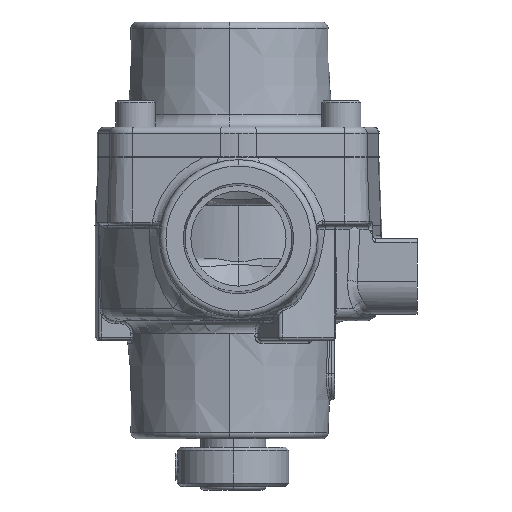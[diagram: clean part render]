
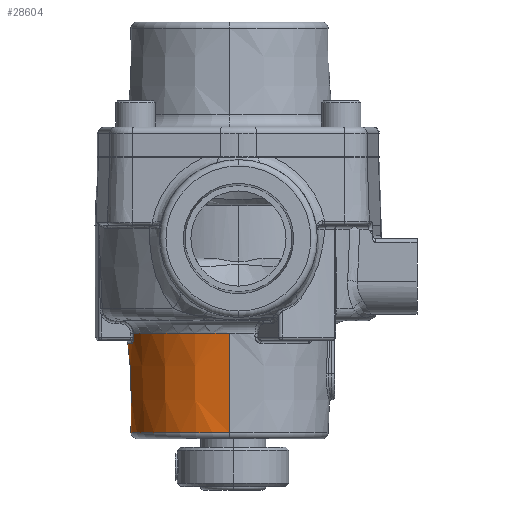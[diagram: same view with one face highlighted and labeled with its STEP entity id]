
A CAD part, left-side view. The second image highlights one B-rep face of the part: STEP entity #28604.
In plain terms, the highlighted conical face has half-angle 2 degrees and reference radius 24.803 mm.
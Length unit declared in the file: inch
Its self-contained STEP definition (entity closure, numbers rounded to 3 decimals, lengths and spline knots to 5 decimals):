
#14 = AXIS2_PLACEMENT_3D ( 'NONE', #29384, #29385, #29386 ) ;
#49 = AXIS2_PLACEMENT_3D ( 'NONE', #41721, #41723, #41724 ) ;
#1310 = DIRECTION ( 'NONE',  ( 0., 0., -1. ) ) ;
#1315 = CARTESIAN_POINT ( 'NONE',  ( 0., 0.084, 1.00436 ) ) ;
#1345 = DIRECTION ( 'NONE',  ( 1., 0., 0. ) ) ;
#3415 = CARTESIAN_POINT ( 'NONE',  ( -0.97229, 0.084, 1.00436 ) ) ;
#3571 = CARTESIAN_POINT ( 'NONE',  ( -0.93924, 0.084, 0.05791 ) ) ;
#3652 = CARTESIAN_POINT ( 'NONE',  ( 0.97229, 0.084, 1.00436 ) ) ;
#3857 = CARTESIAN_POINT ( 'NONE',  ( 0.27354, 1.01355, 0.90905 ) ) ;
#3989 = VERTEX_POINT ( 'NONE', #3857 ) ;
#4150 = VERTEX_POINT ( 'NONE', #3571 ) ;
#4191 = VERTEX_POINT ( 'NONE', #3652 ) ;
#4434 = VERTEX_POINT ( 'NONE', #3415 ) ;
#5062 = VERTEX_POINT ( 'NONE', #36518 ) ;
#5078 = VERTEX_POINT ( 'NONE', #36513 ) ;
#5499 = B_SPLINE_CURVE_WITH_KNOTS ( 'NONE', 3,
 ( #51690, #51725, #51668, #51667 ),
 .UNSPECIFIED., .F., .F.,
 ( 4, 4 ),
 ( 0., 0.0009 ),
 .UNSPECIFIED. ) ;
#5597 = B_SPLINE_CURVE_WITH_KNOTS ( 'NONE', 3,
 ( #7863, #7874, #7883, #7885, #7886, #7888, #7890, #7892, #7893, #7894, #7895, #7897 ),
 .UNSPECIFIED., .F., .F.,
 ( 4, 2, 2, 2, 2, 4 ),
 ( 0., 0.0006, 0.0009, 0.0012, 0.0018, 0.0024 ),
 .UNSPECIFIED. ) ;
#5636 = B_SPLINE_CURVE_WITH_KNOTS ( 'NONE', 3,
 ( #29383, #29392, #29420, #29421, #29422, #29423, #29424, #29425, #29426, #29427, #29428, #29429, #29430, #29431 ),
 .UNSPECIFIED., .F., .F.,
 ( 4, 2, 2, 2, 2, 2, 4 ),
 ( 0., 0.0003, 0.0006, 0.0009, 0.0012, 0.0018, 0.0024 ),
 .UNSPECIFIED. ) ;
#6044 = B_SPLINE_CURVE_WITH_KNOTS ( 'NONE', 3,
 ( #42836, #42601, #42594, #42574 ),
 .UNSPECIFIED., .F., .F.,
 ( 4, 4 ),
 ( 0., 0.0009 ),
 .UNSPECIFIED. ) ;
#6919 = AXIS2_PLACEMENT_3D ( 'NONE', #1315, #1310, #1345 ) ;
#7863 = CARTESIAN_POINT ( 'NONE',  ( -0.27354, 1.01355, 0.90905 ) ) ;
#7874 = CARTESIAN_POINT ( 'NONE',  ( -0.28119, 1.0113, 0.90905 ) ) ;
#7883 = CARTESIAN_POINT ( 'NONE',  ( -0.28867, 1.00904, 0.91059 ) ) ;
#7885 = CARTESIAN_POINT ( 'NONE',  ( -0.2992, 1.00584, 0.91505 ) ) ;
#7886 = CARTESIAN_POINT ( 'NONE',  ( -0.30253, 1.00481, 0.91688 ) ) ;
#7888 = CARTESIAN_POINT ( 'NONE',  ( -0.30884, 1.00288, 0.92118 ) ) ;
#7890 = CARTESIAN_POINT ( 'NONE',  ( -0.31184, 1.00195, 0.9237 ) ) ;
#7892 = CARTESIAN_POINT ( 'NONE',  ( -0.31992, 0.99949, 0.93196 ) ) ;
#7893 = CARTESIAN_POINT ( 'NONE',  ( -0.3243, 0.99818, 0.93865 ) ) ;
#7894 = CARTESIAN_POINT ( 'NONE',  ( -0.33018, 0.99661, 0.95314 ) ) ;
#7895 = CARTESIAN_POINT ( 'NONE',  ( -0.33175, 0.99633, 0.96107 ) ) ;
#7897 = CARTESIAN_POINT ( 'NONE',  ( -0.33176, 0.99662, 0.96905 ) ) ;
#9993 = ORIENTED_EDGE ( 'NONE', *, *, #43315, .F. ) ;
#10008 = ORIENTED_EDGE ( 'NONE', *, *, #16165, .T. ) ;
#10022 = ORIENTED_EDGE ( 'NONE', *, *, #43309, .T. ) ;
#10072 = ORIENTED_EDGE ( 'NONE', *, *, #43239, .T. ) ;
#10187 = ORIENTED_EDGE ( 'NONE', *, *, #16162, .T. ) ;
#10296 = ORIENTED_EDGE ( 'NONE', *, *, #15755, .F. ) ;
#10316 = ORIENTED_EDGE ( 'NONE', *, *, #42808, .F. ) ;
#10330 = ORIENTED_EDGE ( 'NONE', *, *, #16033, .T. ) ;
#10354 = ORIENTED_EDGE ( 'NONE', *, *, #48419, .T. ) ;
#10455 = ORIENTED_EDGE ( 'NONE', *, *, #22302, .T. ) ;
#10924 = CONICAL_SURFACE ( 'NONE', #44820, 0.9765, 0.035 ) ;
#10986 = FACE_OUTER_BOUND ( 'NONE', #48134, .T. ) ;
#15231 = CIRCLE ( 'NONE', #6919, 0.97229 ) ;
#15375 = VECTOR ( 'NONE', #42959, 39.37008 ) ;
#15380 = LINE ( 'NONE', #42562, #15375 ) ;
#15755 = EDGE_CURVE ( 'NONE', #5062, #4191, #43215, .T. ) ;
#16033 = EDGE_CURVE ( 'NONE', #5078, #4191, #15231, .T. ) ;
#16162 = EDGE_CURVE ( 'NONE', #22893, #5078, #6044, .T. ) ;
#16165 = EDGE_CURVE ( 'NONE', #4150, #4434, #15380, .T. ) ;
#22302 = EDGE_CURVE ( 'NONE', #22865, #22898, #5499, .T. ) ;
#22865 = VERTEX_POINT ( 'NONE', #26602 ) ;
#22890 = VERTEX_POINT ( 'NONE', #26317 ) ;
#22893 = VERTEX_POINT ( 'NONE', #26185 ) ;
#22898 = VERTEX_POINT ( 'NONE', #26177 ) ;
#23434 = CARTESIAN_POINT ( 'NONE',  ( 0.9765, 0.084, 1.125 ) ) ;
#23493 = DIRECTION ( 'NONE',  ( 0.035, 0., 0.999 ) ) ;
#26177 = CARTESIAN_POINT ( 'NONE',  ( -0.33176, 0.99662, 0.96905 ) ) ;
#26185 = CARTESIAN_POINT ( 'NONE',  ( 0.33176, 0.99662, 0.96905 ) ) ;
#26317 = CARTESIAN_POINT ( 'NONE',  ( -0.27354, 1.01355, 0.90905 ) ) ;
#26602 = CARTESIAN_POINT ( 'NONE',  ( -0.33177, 0.99793, 1.00436 ) ) ;
#28604 = ADVANCED_FACE ( 'NONE', ( #10986 ), #10924, .T. ) ;
#28963 = CARTESIAN_POINT ( 'NONE',  ( 0., 0.084, 1.00436 ) ) ;
#28964 = DIRECTION ( 'NONE',  ( 0., 0., -1. ) ) ;
#28965 = DIRECTION ( 'NONE',  ( 1., 0., 0. ) ) ;
#29383 = CARTESIAN_POINT ( 'NONE',  ( 0.33176, 0.99662, 0.96905 ) ) ;
#29384 = CARTESIAN_POINT ( 'NONE',  ( 0., 0.084, 0.90905 ) ) ;
#29385 = DIRECTION ( 'NONE',  ( 0., 0., -1. ) ) ;
#29386 = DIRECTION ( 'NONE',  ( 1., 0., 0. ) ) ;
#29392 = CARTESIAN_POINT ( 'NONE',  ( 0.33176, 0.99648, 0.96506 ) ) ;
#29420 = CARTESIAN_POINT ( 'NONE',  ( 0.33137, 0.99647, 0.96114 ) ) ;
#29421 = CARTESIAN_POINT ( 'NONE',  ( 0.32987, 0.99673, 0.95342 ) ) ;
#29422 = CARTESIAN_POINT ( 'NONE',  ( 0.32874, 0.997, 0.94958 ) ) ;
#29423 = CARTESIAN_POINT ( 'NONE',  ( 0.32578, 0.99778, 0.9423 ) ) ;
#29424 = CARTESIAN_POINT ( 'NONE',  ( 0.32398, 0.9983, 0.93884 ) ) ;
#29425 = CARTESIAN_POINT ( 'NONE',  ( 0.31971, 0.99956, 0.93231 ) ) ;
#29426 = CARTESIAN_POINT ( 'NONE',  ( 0.31725, 1.0003, 0.92923 ) ) ;
#29427 = CARTESIAN_POINT ( 'NONE',  ( 0.30918, 1.00276, 0.92098 ) ) ;
#29428 = CARTESIAN_POINT ( 'NONE',  ( 0.30271, 1.00477, 0.91655 ) ) ;
#29429 = CARTESIAN_POINT ( 'NONE',  ( 0.28877, 1.00902, 0.91062 ) ) ;
#29430 = CARTESIAN_POINT ( 'NONE',  ( 0.28118, 1.0113, 0.90905 ) ) ;
#29431 = CARTESIAN_POINT ( 'NONE',  ( 0.27354, 1.01355, 0.90905 ) ) ;
#36513 = CARTESIAN_POINT ( 'NONE',  ( 0.33177, 0.99793, 1.00436 ) ) ;
#36518 = CARTESIAN_POINT ( 'NONE',  ( 0.93924, 0.084, 0.05791 ) ) ;
#38413 = CARTESIAN_POINT ( 'NONE',  ( 0., 0.084, 1.125 ) ) ;
#38414 = DIRECTION ( 'NONE',  ( -1., 0., 0. ) ) ;
#38419 = DIRECTION ( 'NONE',  ( 0., 0., 1. ) ) ;
#41721 = CARTESIAN_POINT ( 'NONE',  ( 0., 0.084, 0.05791 ) ) ;
#41723 = DIRECTION ( 'NONE',  ( 0., 0., 1. ) ) ;
#41724 = DIRECTION ( 'NONE',  ( 1., 0., 0. ) ) ;
#41747 = AXIS2_PLACEMENT_3D ( 'NONE', #28963, #28964, #28965 ) ;
#42562 = CARTESIAN_POINT ( 'NONE',  ( -0.9765, 0.084, 1.125 ) ) ;
#42574 = CARTESIAN_POINT ( 'NONE',  ( 0.33177, 0.99793, 1.00436 ) ) ;
#42594 = CARTESIAN_POINT ( 'NONE',  ( 0.33177, 0.9975, 0.99259 ) ) ;
#42601 = CARTESIAN_POINT ( 'NONE',  ( 0.33176, 0.99706, 0.98082 ) ) ;
#42808 = EDGE_CURVE ( 'NONE', #22890, #22898, #5597, .T. ) ;
#42836 = CARTESIAN_POINT ( 'NONE',  ( 0.33176, 0.99662, 0.96905 ) ) ;
#42959 = DIRECTION ( 'NONE',  ( -0.035, 0., 0.999 ) ) ;
#43215 = LINE ( 'NONE', #23434, #43223 ) ;
#43223 = VECTOR ( 'NONE', #23493, 39.37008 ) ;
#43239 = EDGE_CURVE ( 'NONE', #4434, #22865, #49716, .T. ) ;
#43309 = EDGE_CURVE ( 'NONE', #22890, #3989, #48933, .T. ) ;
#43315 = EDGE_CURVE ( 'NONE', #22893, #3989, #5636, .T. ) ;
#44820 = AXIS2_PLACEMENT_3D ( 'NONE', #38413, #38419, #38414 ) ;
#48134 = EDGE_LOOP ( 'NONE', ( #10296, #10354, #10008, #10072, #10455, #10316, #10022, #9993, #10187, #10330 ) ) ;
#48419 = EDGE_CURVE ( 'NONE', #5062, #4150, #50113, .T. ) ;
#48933 = CIRCLE ( 'NONE', #14, 0.96896 ) ;
#49716 = CIRCLE ( 'NONE', #41747, 0.97229 ) ;
#50113 = CIRCLE ( 'NONE', #49, 0.93924 ) ;
#51667 = CARTESIAN_POINT ( 'NONE',  ( -0.33176, 0.99662, 0.96905 ) ) ;
#51668 = CARTESIAN_POINT ( 'NONE',  ( -0.33176, 0.99706, 0.98082 ) ) ;
#51690 = CARTESIAN_POINT ( 'NONE',  ( -0.33177, 0.99793, 1.00436 ) ) ;
#51725 = CARTESIAN_POINT ( 'NONE',  ( -0.33177, 0.9975, 0.99259 ) ) ;
